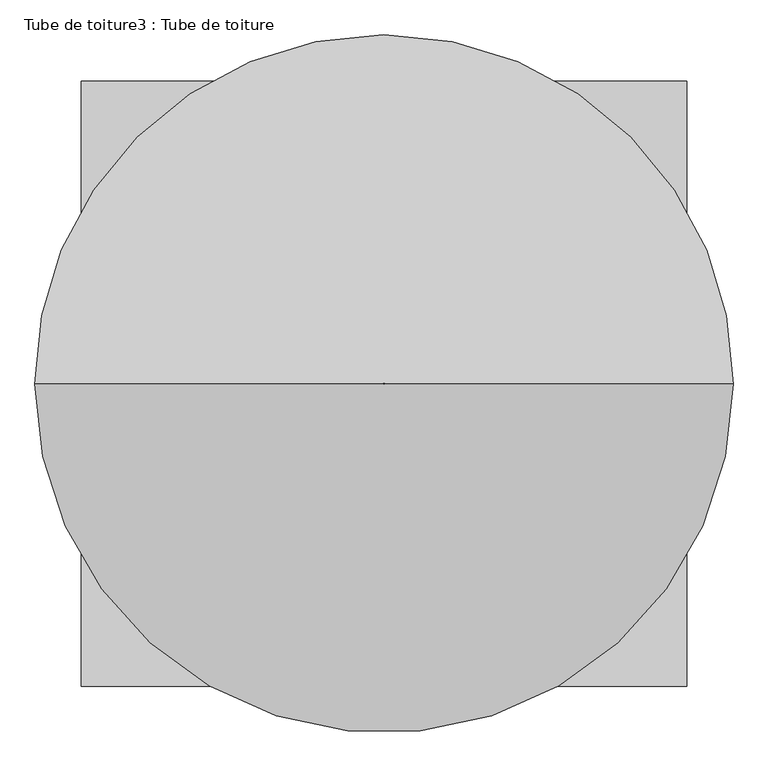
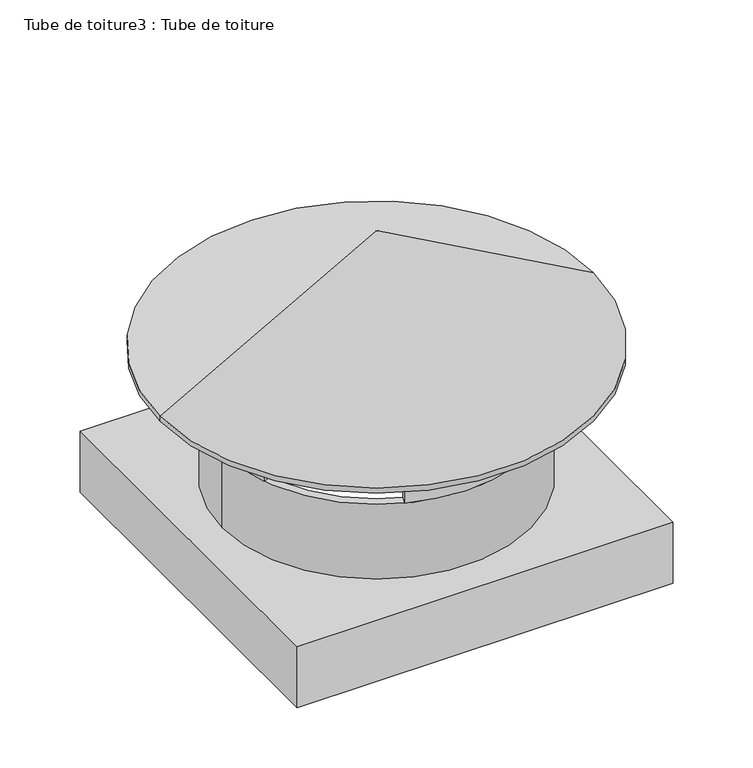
"""IFC4 building model written with IfcOpenShell, lengths in millimetres: proxy geometry, Tube de toiture3 : Tube de toiture."""

from ifc_helpers import new_model, si_unit, point, frame, frame_2d, origin, place, context, project, spatial, polyline, circle_curve, trimmed, segment, composite_curve, outline, extrude, source, transform, mapped, element, save
from ifc_brep_helpers import plane_surface, cylinder_surface, revolved_surface, advanced_brep


def tube_de_toiture3_tube_de_toiture_959dfdbf(model_context):
    return source(origin(), model_context, "Body", "SolidModel", [
        extrude(outline(composite_curve([segment(polyline([(-29903.8996221, 5912.1439027), (-29885.2279384, 5919.3112906)]), True, "CONTINUOUS"), segment(trimmed(circle_curve(frame_2d((-30230.285479, 5785.7624467)), 370.0), [point((-29885.2279384, 5919.3112906))], [point((-29885.2279384, 5652.2136028))], False, "CARTESIAN"), True, "CONTINUOUS"), segment(polyline([(-29885.2279384, 5652.2136028), (-29903.8996221, 5659.3809907)]), True, "CONTINUOUS"), segment(trimmed(circle_curve(frame_2d((-30230.285479, 5785.7624467)), 350.0), [point((-29903.8996221, 5659.3809907))], [point((-29903.8996221, 5912.1439027))], True, "CARTESIAN"), True, "CONTINUOUS")], self_intersect=False)), frame((0.0, 0.0, 4396.7742234), z_axis=(0.0, 0.0, 1.0), x_axis=(1.0, 0.0, 0.0)), (0.0, 0.0, 1.0), 132.3636217),
        extrude(outline(composite_curve([segment(polyline([(-30355.8830136, 6112.450768), (-30363.0503735, 6131.1223789)]), True, "CONTINUOUS"), segment(trimmed(circle_curve(frame_2d((-30230.285479, 5785.7624467)), 370.0), [point((-30363.0503735, 6131.1223789))], [point((-30097.8581225, 6131.2519476))], False, "CARTESIAN"), True, "CONTINUOUS"), segment(polyline([(-30097.8581225, 6131.2519476), (-30105.0254824, 6112.5803368)]), True, "CONTINUOUS"), segment(trimmed(circle_curve(frame_2d((-30230.285479, 5785.7624467)), 350.0), [point((-30105.0254824, 6112.5803368))], [point((-30355.8830136, 6112.450768))], True, "CARTESIAN"), True, "CONTINUOUS")], self_intersect=False)), frame((0.0, 0.0, 4396.7742234), z_axis=(0.0, 0.0, 1.0), x_axis=(1.0, 0.0, 0.0)), (0.0, 0.0, 1.0), 132.3636217),
        extrude(outline(composite_curve([segment(polyline([(-30557.4031399, 5661.2874055), (-30576.0748236, 5654.1200176)]), True, "CONTINUOUS"), segment(trimmed(circle_curve(frame_2d((-30230.285479, 5785.7624467)), 370.0), [point((-30576.0748236, 5654.1200176))], [point((-30576.0748236, 5917.4048758))], False, "CARTESIAN"), True, "CONTINUOUS"), segment(polyline([(-30576.0748236, 5917.4048758), (-30557.4031399, 5910.2374879)]), True, "CONTINUOUS"), segment(trimmed(circle_curve(frame_2d((-30230.285479, 5785.7624467)), 350.0), [point((-30557.4031399, 5910.2374879))], [point((-30557.4031399, 5661.2874055))], True, "CARTESIAN"), True, "CONTINUOUS")], self_intersect=False)), frame((0.0, 0.0, 4396.7742234), z_axis=(0.0, 0.0, 1.0), x_axis=(1.0, 0.0, 0.0)), (0.0, 0.0, 1.0), 132.3636217),
        extrude(outline(composite_curve([segment(trimmed(circle_curve(frame_2d((-30230.285479, 5785.7624467)), 370.0), [point((-30097.8581225, 5440.2729458))], [point((-30363.0503735, 5440.4025145))], False, "CARTESIAN"), True, "CONTINUOUS"), segment(polyline([(-30363.0503735, 5440.4025145), (-30355.8830136, 5459.0741254)]), True, "CONTINUOUS"), segment(trimmed(circle_curve(frame_2d((-30230.285479, 5785.7624467)), 350.0), [point((-30355.8830136, 5459.0741254))], [point((-30105.0254824, 5458.9445566))], True, "CARTESIAN"), True, "CONTINUOUS"), segment(polyline([(-30105.0254824, 5458.9445566), (-30097.8581225, 5440.2729458)]), True, "CONTINUOUS")], self_intersect=False)), frame((0.0, 0.0, 4396.7742234), z_axis=(0.0, 0.0, 1.0), x_axis=(1.0, 0.0, 0.0)), (0.0, 0.0, 1.0), 132.3636217),
        advanced_brep(
        [(-29843.9683994, 5785.7624467, 4603.0703646), (-30616.6025585, 5785.7624467, 4603.0703646), (-30231.7291164, 5785.7624467, 4816.4091973), (-30228.8418415, 5785.7624467, 4816.4091973), (-29950.285479, 5785.7624467, 4529.1378451), (-30510.285479, 5785.7624467, 4529.1378451), (-30510.285479, 5785.7624467, 4544.1378451), (-29950.285479, 5785.7624467, 4544.1378451), (-29843.9683994, 5785.7624467, 4544.1378451), (-30616.6025585, 5785.7624467, 4544.1378451), (-30749.4171624, 5785.7624467, 4529.1378451), (-29711.1537955, 5785.7624467, 4529.1378451), (-29711.1537955, 5785.7624467, 4542.3171089), (-30749.4171624, 5785.7624467, 4542.3171089), (-30228.8418415, 5785.7624467, 4829.2762787), (-30231.7291164, 5785.7624467, 4829.2762787)],
        [
            (0, 1, circle_curve(frame((-30230.285479, 5785.7624467, 4603.0703646), z_axis=(0.0, 0.0, -1.0), x_axis=(-1.0, 0.0, 0.0)), 386.3170796)),
            (1, 2),
            (2, 3, circle_curve(frame((-30230.285479, 5785.7624467, 4816.4091973), z_axis=(0.0, 0.0, 1.0), x_axis=(-1.0, 0.0, 0.0)), 1.4436374)),
            (3, 0),
            (4, 5, circle_curve(frame((-30230.285479, 5785.7624467, 4529.1378451), z_axis=(0.0, 0.0, -1.0), x_axis=(-1.0, 0.0, 0.0)), 280.0)),
            (5, 6),
            (6, 7, circle_curve(frame((-30230.285479, 5785.7624467, 4544.1378451), z_axis=(0.0, 0.0, 1.0), x_axis=(-1.0, 0.0, 0.0)), 280.0)),
            (7, 4),
            (1, 0, circle_curve(frame((-30230.285479, 5785.7624467, 4603.0703646), z_axis=(0.0, 0.0, -1.0), x_axis=(1.0, 0.0, 0.0)), 386.3170796)),
            (3, 2, circle_curve(frame((-30230.285479, 5785.7624467, 4816.4091973), z_axis=(0.0, 0.0, 1.0), x_axis=(1.0, 0.0, 0.0)), 1.4436374)),
            (8, 9, circle_curve(frame((-30230.285479, 5785.7624467, 4544.1378451), z_axis=(0.0, 0.0, 1.0), x_axis=(1.0, 0.0, 0.0)), 386.3170796)),
            (9, 8, circle_curve(frame((-30230.285479, 5785.7624467, 4544.1378451), z_axis=(0.0, 0.0, 1.0), x_axis=(-1.0, 0.0, 0.0)), 386.3170796)),
            (6, 7, circle_curve(frame((-30230.285479, 5785.7624467, 4544.1378451), z_axis=(0.0, 0.0, -1.0), x_axis=(1.0, 0.0, 0.0)), 280.0)),
            (5, 4, circle_curve(frame((-30230.285479, 5785.7624467, 4529.1378451), z_axis=(0.0, 0.0, -1.0), x_axis=(1.0, 0.0, 0.0)), 280.0)),
            (10, 11, circle_curve(frame((-30230.285479, 5785.7624467, 4529.1378451), z_axis=(0.0, 0.0, -1.0), x_axis=(1.0, 0.0, 0.0)), 519.1316835)),
            (11, 10, circle_curve(frame((-30230.285479, 5785.7624467, 4529.1378451), z_axis=(0.0, 0.0, -1.0), x_axis=(-1.0, 0.0, 0.0)), 519.1316835)),
            (12, 13, circle_curve(frame((-30230.285479, 5785.7624467, 4542.3171089), z_axis=(0.0, 0.0, -1.0), x_axis=(-1.0, 0.0, 0.0)), 519.1316835)),
            (13, 10),
            (11, 12),
            (14, 15, circle_curve(frame((-30230.285479, 5785.7624467, 4829.2762787), z_axis=(0.0, 0.0, -1.0), x_axis=(-1.0, 0.0, 0.0)), 1.4436374)),
            (15, 13),
            (12, 14),
            (2, 15),
            (14, 3),
            (9, 1),
            (0, 8),
            (13, 12, circle_curve(frame((-30230.285479, 5785.7624467, 4542.3171089), z_axis=(0.0, 0.0, -1.0), x_axis=(1.0, 0.0, 0.0)), 519.1316835)),
            (15, 14, circle_curve(frame((-30230.285479, 5785.7624467, 4829.2762787), z_axis=(0.0, 0.0, -1.0), x_axis=(1.0, 0.0, 0.0)), 1.4436374)),
        ],
        [
            revolved_surface(polyline([(-30231.7291164, 5785.7624467, 4816.4091973), (-30616.6025585, 5785.7624467, 4603.0703646)]), (-30230.285479, 5785.7624467, 4436.7742234), (0.0, 0.0, 1.0)),
            revolved_surface(polyline([(-30510.285479, 5785.7624467, 4544.1378451), (-30510.285479, 5785.7624467, 4529.1378451)]), (-30230.285479, 5785.7624467, 4436.7742234), (0.0, 0.0, 1.0)),
            revolved_surface(polyline([(-30228.8418415, 5785.7624467, 4816.4091973), (-29843.9683994, 5785.7624467, 4603.0703646)]), (-30230.285479, 5785.7624467, 4436.7742234), (0.0, 0.0, 1.0)),
            plane_surface(frame((-30230.285479, 5785.7624467, 4544.1378451), z_axis=(0.0, 0.0, 1.0), x_axis=(1.0, 0.0, 0.0))),
            revolved_surface(polyline([(-29950.285479, 5785.7624467, 4544.1378451), (-29950.285479, 5785.7624467, 4529.1378451)]), (-30230.285479, 5785.7624467, 4436.7742234), (0.0, 0.0, 1.0)),
            plane_surface(frame((-30230.285479, 5785.7624467, 4529.1378451), z_axis=(0.0, 0.0, -1.0), x_axis=(1.0, 0.0, 0.0))),
            cylinder_surface(frame((-30230.285479, 5785.7624467, 4436.7742234), z_axis=(0.0, 0.0, 1.0), x_axis=(-1.0, 0.0, 0.0)), 519.1316835),
            revolved_surface(polyline([(-30749.4171624, 5785.7624467, 4542.3171089), (-30231.7291164, 5785.7624467, 4829.2762787)]), (-30230.285479, 5785.7624467, 4436.7742234), (0.0, 0.0, 1.0)),
            revolved_surface(polyline([(-30231.729116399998, 5785.7624467, 4829.2762787), (-30231.729116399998, 5785.7624467, 4816.4091973)]), (-30230.285479, 5785.7624467, 4436.7742234), (0.0, 0.0, 1.0)),
            revolved_surface(polyline([(-30616.6025586, 5785.7624467, 4603.0703646), (-30616.6025586, 5785.7624467, 4544.1378451)]), (-30230.285479, 5785.7624467, 4436.7742234), (0.0, 0.0, 1.0)),
            cylinder_surface(frame((-30230.285479, 5785.7624467, 4436.7742234), z_axis=(0.0, 0.0, 1.0), x_axis=(1.0, 0.0, 0.0)), 519.1316835),
            revolved_surface(polyline([(-29711.1537955, 5785.7624467, 4542.3171089), (-30228.8418415, 5785.7624467, 4829.2762787)]), (-30230.285479, 5785.7624467, 4436.7742234), (0.0, 0.0, 1.0)),
            revolved_surface(polyline([(-30228.8418416, 5785.7624467, 4829.2762787), (-30228.8418416, 5785.7624467, 4816.4091973)]), (-30230.285479, 5785.7624467, 4436.7742234), (0.0, 0.0, 1.0)),
            revolved_surface(polyline([(-29843.968399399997, 5785.7624467, 4603.0703646), (-29843.968399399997, 5785.7624467, 4544.1378451)]), (-30230.285479, 5785.7624467, 4436.7742234), (0.0, 0.0, 1.0)),
        ],
        [
            (0, [[1, 2, 3, 4]]),
            (1, [[5, 6, 7, 8]]),
            (2, [[9, -4, 10, -2]]),
            (3, [[11, 12], [13, -7]]),
            (4, [[14, -8, -13, -6]]),
            (5, [[15, 16], [-14, -5]]),
            (6, [[17, 18, -16, 19]]),
            (7, [[20, 21, -17, 22]]),
            (8, [[-3, 23, -20, 24]]),
            (9, [[-12, 25, -1, 26]]),
            (10, [[27, -19, -15, -18]]),
            (11, [[28, -22, -27, -21]]),
            (12, [[-10, -24, -28, -23]]),
            (13, [[-11, -26, -9, -25]]),
        ],
    ),
        extrude(outline(polyline([(-30680.285479, 6235.7624467), (-29780.285479, 6235.7624467), (-29780.285479, 5335.7624467), (-30680.285479, 5335.7624467), (-30680.285479, 6235.7624467)]), holes=[composite_curve([segment(trimmed(circle_curve(frame_2d((-30207.5797272, 5770.177026)), 300.0), [point((-30507.5797272, 5770.177026))], [point((-29907.5797272, 5770.177026))], True, "CARTESIAN"), True, "CONTINUOUS"), segment(trimmed(circle_curve(frame_2d((-30207.5797272, 5770.177026)), 300.0), [point((-29907.5797272, 5770.177026))], [point((-30507.5797272, 5770.177026))], True, "CARTESIAN"), True, "CONTINUOUS")], self_intersect=False)]), frame((0.0, 0.0, 4053.3082742), z_axis=(0.0, 0.0, 1.0), x_axis=(1.0, 0.0, 0.0)), (0.0, 0.0, 1.0), 153.8074351),
        extrude(outline(composite_curve([segment(trimmed(circle_curve(frame_2d((-30230.285479, 5785.7624467)), 370.0), [point((-30600.285479, 5785.7624467))], [point((-29860.285479, 5785.7624467))], False, "CARTESIAN"), True, "CONTINUOUS"), segment(trimmed(circle_curve(frame_2d((-30230.285479, 5785.7624467)), 370.0), [point((-29860.285479, 5785.7624467))], [point((-30600.285479, 5785.7624467))], False, "CARTESIAN"), True, "CONTINUOUS")], self_intersect=False), holes=[composite_curve([segment(trimmed(circle_curve(frame_2d((-30230.285479, 5785.7624467)), 350.0), [point((-30580.285479, 5785.7624467))], [point((-29880.285479, 5785.7624467))], True, "CARTESIAN"), True, "CONTINUOUS"), segment(trimmed(circle_curve(frame_2d((-30230.285479, 5785.7624467)), 350.0), [point((-29880.285479, 5785.7624467))], [point((-30580.285479, 5785.7624467))], True, "CARTESIAN"), True, "CONTINUOUS")], self_intersect=False)]), frame((0.0, 0.0, 4207.1157093), z_axis=(0.0, 0.0, 1.0), x_axis=(1.0, 0.0, 0.0)), (0.0, 0.0, 1.0), 189.6585141),
    ])


if __name__ == "__main__":
    model = new_model("IFC4")
    model_context = context("Model", 3, world=origin())
    ifc_project = project(units=[si_unit("LENGTHUNIT", "METRE", prefix="MILLI")], contexts=[model_context])
    site = spatial("IfcSite", under=ifc_project)
    building = spatial("IfcBuilding", under=site)
    placement = place(None, origin())
    tube_de_toiture3_tube_de_toiture_shape = tube_de_toiture3_tube_de_toiture_959dfdbf(model_context)
    element("IfcBuildingElementProxy", 1, Name="Tube de toiture3 : Tube de toiture", ObjectType="Tube de toiture3 : Tube de toiture", at=placement, inside=building, context=model_context, shape_type="MappedRepresentation", body=[
        mapped(tube_de_toiture3_tube_de_toiture_shape, transform((0.0, 0.0, 0.0), x_axis=(1.0, 0.0, 0.0), y_axis=(0.0, 1.0, 0.0), z_axis=(0.0, 0.0, 1.0))),
    ])
    save(model, "model.ifc")
